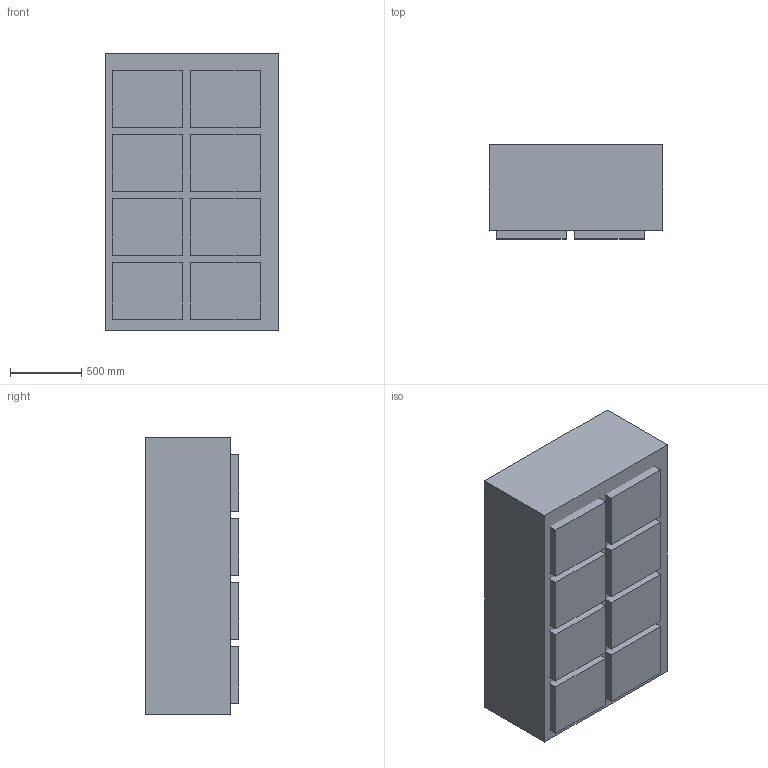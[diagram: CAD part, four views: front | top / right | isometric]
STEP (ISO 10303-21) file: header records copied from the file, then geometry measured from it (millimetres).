
FILE_DESCRIPTION(('FreeCAD Model'),'2;1');
FILE_NAME('Open CASCADE Shape Model','2026-10-28T17:35:04',('Author'),( ''),'Open CASCADE STEP processor 7.8','FreeCAD','Unknown');
FILE_SCHEMA(('AUTOMOTIVE_DESIGN { 1 0 10303 214 1 1 1 1 }'));
Length unit declared in the file: millimetre
Products named in the file (10): Haven1_Public_Reference_R1; Haven-1 Lab rack envelope; Lab payload MLE slot 01; Lab payload MLE slot 02; Lab payload MLE slot 03; Lab payload MLE slot 04; Lab payload MLE slot 05; Lab payload MLE slot 06; Lab payload MLE slot 07; Lab payload MLE slot 08
Assembly tree (9 placements, depth 2):
  Haven1_Public_Reference_R1
    Haven-1 Lab rack envelope
    Lab payload MLE slot 01
    Lab payload MLE slot 02
    Lab payload MLE slot 03
    Lab payload MLE slot 04
    Lab payload MLE slot 05
    Lab payload MLE slot 06
    Lab payload MLE slot 07
    Lab payload MLE slot 08
Bounding box: 1220 x 660 x 1950 mm (x, y, z)
Volume: 1552840000 mm3; surface area: 12837200 mm2
Topology: 9 solids, 9 shells, 54 faces, 108 edges, 72 vertices
Faces by surface type: plane 54
Entity records: 1528 total; most frequent: CARTESIAN_POINT 244, DIRECTION 236, ORIENTED_EDGE 216, EDGE_CURVE 108, LINE 108, VECTOR 108, VERTEX_POINT 72, AXIS2_PLACEMENT_3D 64
